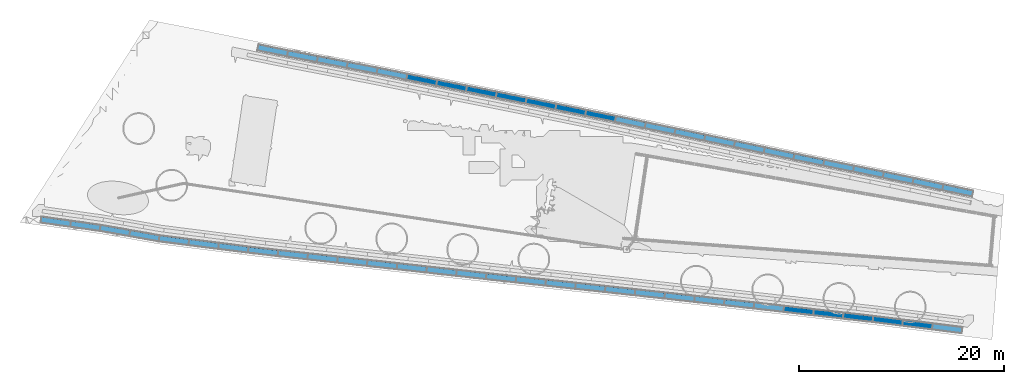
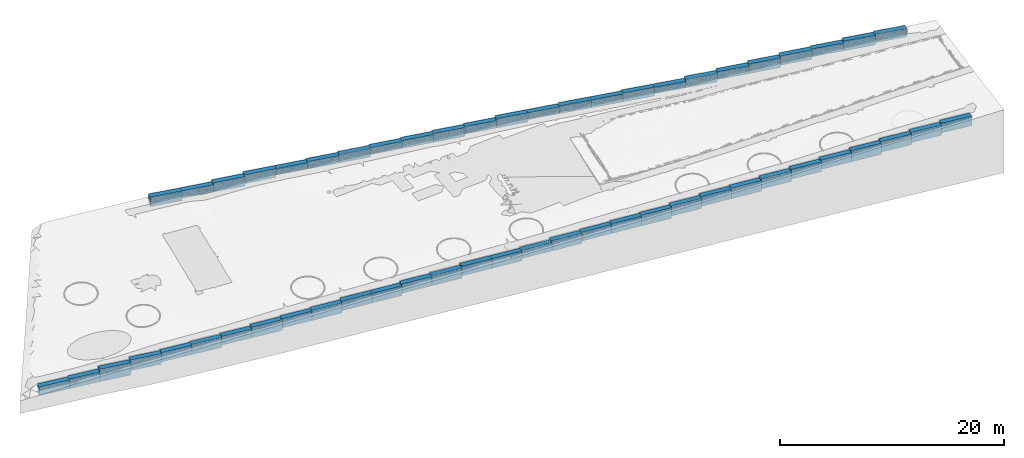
# Not in any storey, part 10 of 33: 55 walls.
"""IFC4 model written with IfcOpenShell, lengths in metres."""

from ifc_helpers import new_model, si_unit, direction, frame, origin_with_axes, place, context, subcontext, project, spatial, polyline, outline, extrude, material, element, save


model = new_model("IFC4")

# Units and contexts
model_context = context("Model", 3, precision=1e-05, world=origin_with_axes(), true_north=direction((0.0, 1.0)))
body_context = subcontext(model_context, "Body", "Model", "MODEL_VIEW")
ifc_project = project(units=[si_unit("LENGTHUNIT", "METRE"), si_unit("AREAUNIT", "SQUARE_METRE"), si_unit("VOLUMEUNIT", "CUBIC_METRE")], contexts=[model_context])

# Site
site_placement = place(None, origin_with_axes())
site = spatial("IfcSite", under=ifc_project, at=site_placement, Name="Lares · Rua das Mercês · artigo 4771")

# Walls
ifc_material = material(Name="Gabião · enchimento", Category="stone")
wall_1_placement = place(site_placement, frame((0.0, 0.0, 13.25), z_axis=(0.0, 0.0, 1.0), x_axis=(1.0, -1.03767253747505e-17, 0.0)))
element("IfcWall", 1, at=wall_1_placement, inside=site, material=ifc_material, Name="Limite north · gabião 4 · núcleo de pedra", ObjectType="Limite north · gabião 4 · núcleo de pedra", PredefinedType="USERDEFINED", context=body_context, shape_type="SweptSolid", body=[
    extrude(outline(polyline([(13.9459810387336, 21.6283738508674), (14.0549092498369, 21.6074246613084), (13.954813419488, 21.0869625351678), (13.8442172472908, 21.1082325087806), (13.8408855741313, 21.1088954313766), (11.0468891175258, 21.6834743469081), (11.1536482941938, 22.2026106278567), (13.9459810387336, 21.6283738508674)])), origin_with_axes(), (0.0, 0.0, 1.0), 1.05),
])
wall_2_placement = place(site_placement, frame((0.0, 0.0, 13.5), z_axis=(0.0, 0.0, 1.0), x_axis=(1.0, -1.03767253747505e-17, 0.0)))
element("IfcWall", 2, at=wall_2_placement, inside=site, material=ifc_material, Name="Limite north · gabião 5 · núcleo de pedra", ObjectType="Limite north · gabião 5 · núcleo de pedra", PredefinedType="USERDEFINED", context=body_context, shape_type="SweptSolid", body=[
    extrude(outline(polyline([(16.9666375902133, 21.0474379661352), (16.8665417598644, 20.5269758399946), (13.954813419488, 21.0869625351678), (14.0549092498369, 21.6074246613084), (16.9666375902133, 21.0474379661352)])), origin_with_axes(), (0.0, 0.0, 1.0), 0.800000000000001),
])
wall_3_placement = place(site_placement, frame((0.0, 0.0, 13.5), z_axis=(0.0, 0.0, 1.0), x_axis=(1.0, -1.03767253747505e-17, 0.0)))
element("IfcWall", 3, at=wall_3_placement, inside=site, material=ifc_material, Name="Limite north · gabião 6 · núcleo de pedra", ObjectType="Limite north · gabião 6 · núcleo de pedra", PredefinedType="USERDEFINED", context=body_context, shape_type="SweptSolid", body=[
    extrude(outline(polyline([(19.8783659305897, 20.487451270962), (19.7782701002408, 19.9669891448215), (16.8665417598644, 20.5269758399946), (16.9666375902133, 21.0474379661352), (19.8783659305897, 20.487451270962)])), origin_with_axes(), (0.0, 0.0, 1.0), 1.0),
])
wall_4_placement = place(site_placement, frame((0.0, 0.0, 13.75), z_axis=(0.0, 0.0, 1.0), x_axis=(1.0, -1.03767253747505e-17, 0.0)))
element("IfcWall", 4, at=wall_4_placement, inside=site, material=ifc_material, Name="Limite north · gabião 7 · núcleo de pedra", ObjectType="Limite north · gabião 7 · núcleo de pedra", PredefinedType="USERDEFINED", context=body_context, shape_type="SweptSolid", body=[
    extrude(outline(polyline([(21.9983013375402, 20.0797430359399), (22.0008751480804, 20.0792348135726), (22.7911217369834, 19.9191251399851), (22.6858782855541, 19.3996794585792), (21.896917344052, 19.5595286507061), (19.7782701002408, 19.9669891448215), (19.8783659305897, 20.487451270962), (21.9983013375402, 20.0797430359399)])), origin_with_axes(), (0.0, 0.0, 1.0), 0.950000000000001),
])
wall_5_placement = place(site_placement, frame((0.0, 0.0, 14.0), z_axis=(0.0, 0.0, 1.0), x_axis=(1.0, -1.03767253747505e-17, 0.0)))
element("IfcWall", 5, at=wall_5_placement, inside=site, material=ifc_material, Name="Limite north · gabião 8 · núcleo de pedra", ObjectType="Limite north · gabião 8 · núcleo de pedra", PredefinedType="USERDEFINED", context=body_context, shape_type="SweptSolid", body=[
    extrude(outline(polyline([(25.6971635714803, 19.3303400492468), (25.5919201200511, 18.8108943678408), (22.6858782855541, 19.3996794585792), (22.7911217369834, 19.9191251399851), (25.6971635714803, 19.3303400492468)])), origin_with_axes(), (0.0, 0.0, 1.0), 0.700000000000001),
])
wall_6_placement = place(site_placement, frame((0.0, 0.0, 14.0), z_axis=(0.0, 0.0, 1.0), x_axis=(1.0, -1.03767253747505e-17, 0.0)))
element("IfcWall", 6, at=wall_6_placement, inside=site, material=ifc_material, Name="Limite north · gabião 9 · núcleo de pedra", ObjectType="Limite north · gabião 9 · núcleo de pedra", PredefinedType="USERDEFINED", context=body_context, shape_type="SweptSolid", body=[
    extrude(outline(polyline([(27.7595237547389, 18.9124909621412), (28.6029361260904, 18.7442291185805), (28.49924383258, 18.2244715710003), (27.6554435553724, 18.392810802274), (27.6546679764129, 18.3929667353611), (25.5919201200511, 18.8108943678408), (25.6971635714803, 19.3303400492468), (27.7595237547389, 18.9124909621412)])), origin_with_axes(), (0.0, 0.0, 1.0), 0.800000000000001),
])
wall_7_placement = place(site_placement, frame((0.0, 0.0, 14.0), z_axis=(0.0, 0.0, 1.0), x_axis=(1.0, -1.03767253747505e-17, 0.0)))
element("IfcWall", 7, at=wall_7_placement, inside=site, material=ifc_material, Name="Limite north · gabião 10 · núcleo de pedra", ObjectType="Limite north · gabião 10 · núcleo de pedra", PredefinedType="USERDEFINED", context=body_context, shape_type="SweptSolid", body=[
    extrude(outline(polyline([(31.5107226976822, 18.1641219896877), (31.4070304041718, 17.6443644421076), (28.49924383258, 18.2244715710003), (28.6029361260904, 18.7442291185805), (31.5107226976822, 18.1641219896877)])), origin_with_axes(), (0.0, 0.0, 1.0), 0.9),
])
wall_8_placement = place(site_placement, frame((0.0, 0.0, 14.25), z_axis=(0.0, 0.0, 1.0), x_axis=(1.0, -1.03767253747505e-17, 0.0)))
element("IfcWall", 8, at=wall_8_placement, inside=site, material=ifc_material, Name="Limite north · gabião 11 · núcleo de pedra", ObjectType="Limite north · gabião 11 · núcleo de pedra", PredefinedType="USERDEFINED", context=body_context, shape_type="SweptSolid", body=[
    extrude(outline(polyline([(34.418509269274, 17.584014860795), (34.3148169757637, 17.0642573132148), (31.4070304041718, 17.6443644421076), (31.5107226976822, 18.1641219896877), (34.418509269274, 17.584014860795)])), origin_with_axes(), (0.0, 0.0, 1.0), 0.75),
])
wall_9_placement = place(site_placement, frame((0.0, 0.0, 14.25), z_axis=(0.0, 0.0, 1.0), x_axis=(1.0, -1.03767253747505e-17, 0.0)))
element("IfcWall", 9, at=wall_9_placement, inside=site, material=ifc_material, Name="Limite north · gabião 12 · núcleo de pedra", ObjectType="Limite north · gabião 12 · núcleo de pedra", PredefinedType="USERDEFINED", context=body_context, shape_type="SweptSolid", body=[
    extrude(outline(polyline([(36.5810808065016, 17.1525790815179), (36.5823908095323, 17.152314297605), (37.326846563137, 16.9998864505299), (37.2205342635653, 16.4806584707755), (36.476733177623, 16.6329522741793), (34.3148169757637, 17.0642573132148), (34.418509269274, 17.584014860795), (36.5810808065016, 17.1525790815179)])), origin_with_axes(), (0.0, 0.0, 1.0), 0.850000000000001),
])
wall_10_placement = place(site_placement, frame((0.0, 0.0, 14.25), z_axis=(0.0, 0.0, 1.0), x_axis=(1.0, -1.03767253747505e-17, 0.0)))
element("IfcWall", 10, at=wall_10_placement, inside=site, material=ifc_material, Name="Limite north · gabião 13 · núcleo de pedra", ObjectType="Limite north · gabião 13 · núcleo de pedra", PredefinedType="USERDEFINED", context=body_context, shape_type="SweptSolid", body=[
    extrude(outline(polyline([(40.2316704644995, 16.4051216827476), (40.1253581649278, 15.8858937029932), (37.2205342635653, 16.4806584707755), (37.326846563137, 16.9998864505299), (40.2316704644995, 16.4051216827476)])), origin_with_axes(), (0.0, 0.0, 1.0), 0.950000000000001),
])
wall_11_placement = place(site_placement, frame((0.0, 0.0, 14.5), z_axis=(0.0, 0.0, 1.0), x_axis=(1.0, -1.03767253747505e-17, 0.0)))
element("IfcWall", 11, at=wall_11_placement, inside=site, material=ifc_material, Name="Limite north · gabião 14 · núcleo de pedra", ObjectType="Limite north · gabião 14 · núcleo de pedra", PredefinedType="USERDEFINED", context=body_context, shape_type="SweptSolid", body=[
    extrude(outline(polyline([(43.136494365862, 15.8103569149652), (43.0301820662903, 15.2911289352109), (40.1253581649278, 15.8858937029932), (40.2316704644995, 16.4051216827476), (43.136494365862, 15.8103569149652)])), origin_with_axes(), (0.0, 0.0, 1.0), 0.800000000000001),
])
wall_12_placement = place(site_placement, frame((0.0, 0.0, 14.5), z_axis=(0.0, 0.0, 1.0), x_axis=(1.0, -1.03767253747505e-17, 0.0)))
element("IfcWall", 12, at=wall_12_placement, inside=site, material=ifc_material, Name="Limite north · gabião 15 · núcleo de pedra", ObjectType="Limite north · gabião 15 · núcleo de pedra", PredefinedType="USERDEFINED", context=body_context, shape_type="SweptSolid", body=[
    extrude(outline(polyline([(46.0413182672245, 15.2155921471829), (45.9350059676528, 14.6963641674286), (43.0301820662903, 15.2911289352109), (43.136494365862, 15.8103569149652), (46.0413182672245, 15.2155921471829)])), origin_with_axes(), (0.0, 0.0, 1.0), 1.0),
])
wall_13_placement = place(site_placement, frame((0.0, 0.0, 14.75), z_axis=(0.0, 0.0, 1.0), x_axis=(1.0, -1.03767253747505e-17, 0.0)))
element("IfcWall", 13, at=wall_13_placement, inside=site, material=ifc_material, Name="Limite north · gabião 16 · núcleo de pedra", ObjectType="Limite north · gabião 16 · núcleo de pedra", PredefinedType="USERDEFINED", context=body_context, shape_type="SweptSolid", body=[
    extrude(outline(polyline([(46.0688101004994, 15.2099631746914), (46.0700833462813, 15.2096992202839), (48.9444899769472, 14.6064518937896), (48.8356311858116, 14.0877518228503), (45.9618608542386, 14.6908656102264), (45.9350059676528, 14.6963641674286), (46.0413182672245, 15.2155921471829), (46.0688101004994, 15.2099631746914)])), origin_with_axes(), (0.0, 0.0, 1.0), 0.75),
])
wall_14_placement = place(site_placement, frame((0.0, 0.0, 14.75), z_axis=(0.0, 0.0, 1.0), x_axis=(1.0, -1.03767253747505e-17, 0.0)))
element("IfcWall", 14, at=wall_14_placement, inside=site, material=ifc_material, Name="Limite north · gabião 17 · núcleo de pedra", ObjectType="Limite north · gabião 17 · núcleo de pedra", PredefinedType="USERDEFINED", context=body_context, shape_type="SweptSolid", body=[
    extrude(outline(polyline([(51.846360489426, 13.9974407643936), (51.7375016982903, 13.4787406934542), (48.8356311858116, 14.0877518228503), (48.9444899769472, 14.6064518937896), (51.846360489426, 13.9974407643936)])), origin_with_axes(), (0.0, 0.0, 1.0), 0.850000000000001),
])
wall_15_placement = place(site_placement, frame((0.0, 0.0, 14.75), z_axis=(0.0, 0.0, 1.0), x_axis=(1.0, -1.03767253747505e-17, 0.0)))
element("IfcWall", 15, at=wall_15_placement, inside=site, material=ifc_material, Name="Limite north · gabião 18 · núcleo de pedra", ObjectType="Limite north · gabião 18 · núcleo de pedra", PredefinedType="USERDEFINED", context=body_context, shape_type="SweptSolid", body=[
    extrude(outline(polyline([(54.7482310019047, 13.3884296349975), (54.6393722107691, 12.8697295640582), (51.7375016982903, 13.4787406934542), (51.846360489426, 13.9974407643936), (54.7482310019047, 13.3884296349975)])), origin_with_axes(), (0.0, 0.0, 1.0), 0.850000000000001),
])
wall_16_placement = place(site_placement, frame((0.0, 0.0, 14.75), z_axis=(0.0, 0.0, 1.0), x_axis=(1.0, -1.03767253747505e-17, 0.0)))
element("IfcWall", 16, at=wall_16_placement, inside=site, material=ifc_material, Name="Limite north · gabião 19 · núcleo de pedra", ObjectType="Limite north · gabião 19 · núcleo de pedra", PredefinedType="USERDEFINED", context=body_context, shape_type="SweptSolid", body=[
    extrude(outline(polyline([(56.4691492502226, 13.027263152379), (56.4695476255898, 13.0271792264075), (57.6501177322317, 12.7775205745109), (57.5404621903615, 12.2589883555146), (56.3600912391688, 12.5086048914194), (54.6393722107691, 12.8697295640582), (54.7482310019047, 13.3884296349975), (56.4691492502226, 13.027263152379)])), origin_with_axes(), (0.0, 0.0, 1.0), 0.950000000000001),
])
wall_17_placement = place(site_placement, frame((0.0, 0.0, 15.0), z_axis=(0.0, 0.0, 1.0), x_axis=(1.0, -1.03767253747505e-17, 0.0)))
element("IfcWall", 17, at=wall_17_placement, inside=site, material=ifc_material, Name="Limite north · gabião 20 · núcleo de pedra", ObjectType="Limite north · gabião 20 · núcleo de pedra", PredefinedType="USERDEFINED", context=body_context, shape_type="SweptSolid", body=[
    extrude(outline(polyline([(60.551049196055, 12.1640520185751), (60.4413936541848, 11.6455197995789), (57.5404621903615, 12.2589883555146), (57.6501177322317, 12.7775205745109), (60.551049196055, 12.1640520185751)])), origin_with_axes(), (0.0, 0.0, 1.0), 0.700000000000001),
])
wall_18_placement = place(site_placement, frame((0.0, 0.0, 15.0), z_axis=(0.0, 0.0, 1.0), x_axis=(1.0, -1.03767253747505e-17, 0.0)))
element("IfcWall", 18, at=wall_18_placement, inside=site, material=ifc_material, Name="Limite north · gabião 21 · núcleo de pedra", ObjectType="Limite north · gabião 21 · núcleo de pedra", PredefinedType="USERDEFINED", context=body_context, shape_type="SweptSolid", body=[
    extrude(outline(polyline([(63.4519806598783, 11.5505834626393), (63.3423251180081, 11.0320512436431), (60.4413936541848, 11.6455197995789), (60.551049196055, 12.1640520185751), (63.4519806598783, 11.5505834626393)])), origin_with_axes(), (0.0, 0.0, 1.0), 0.9),
])
wall_19_placement = place(site_placement, frame((0.0, 0.0, 15.25), z_axis=(0.0, 0.0, 1.0), x_axis=(1.0, -1.03767253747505e-17, 0.0)))
element("IfcWall", 19, at=wall_19_placement, inside=site, material=ifc_material, Name="Limite north · gabião 22 · núcleo de pedra", ObjectType="Limite north · gabião 22 · núcleo de pedra", PredefinedType="USERDEFINED", context=body_context, shape_type="SweptSolid", body=[
    extrude(outline(polyline([(65.1604418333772, 11.1892901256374), (66.3527884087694, 10.9488009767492), (66.2480007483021, 10.4292631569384), (65.0544360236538, 10.6699979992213), (65.0520020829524, 10.6705007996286), (63.3423251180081, 11.0320512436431), (63.4519806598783, 11.5505834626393), (65.1604418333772, 11.1892901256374)])), origin_with_axes(), (0.0, 0.0, 1.0), 0.850000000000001),
])
wall_20_placement = place(site_placement, frame((0.0, 0.0, 15.25), z_axis=(0.0, 0.0, 1.0), x_axis=(1.0, -1.03767253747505e-17, 0.0)))
element("IfcWall", 20, at=wall_20_placement, inside=site, material=ifc_material, Name="Limite north · gabião 23 · núcleo de pedra", ObjectType="Limite north · gabião 23 · núcleo de pedra", PredefinedType="USERDEFINED", context=body_context, shape_type="SweptSolid", body=[
    extrude(outline(polyline([(69.2593457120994, 10.3625658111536), (69.1545580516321, 9.84302799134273), (66.2480007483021, 10.4292631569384), (66.3527884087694, 10.9488009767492), (69.2593457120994, 10.3625658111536)])), origin_with_axes(), (0.0, 0.0, 1.0), 1.05),
])
wall_21_placement = place(site_placement, frame((0.0, 0.0, 15.5), z_axis=(0.0, 0.0, 1.0), x_axis=(1.0, -1.03767253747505e-17, 0.0)))
element("IfcWall", 21, at=wall_21_placement, inside=site, material=ifc_material, Name="Limite north · gabião 24 · núcleo de pedra", ObjectType="Limite north · gabião 24 · núcleo de pedra", PredefinedType="USERDEFINED", context=body_context, shape_type="SweptSolid", body=[
    extrude(outline(polyline([(72.1659030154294, 9.77633064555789), (72.0611153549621, 9.25679282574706), (69.1545580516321, 9.84302799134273), (69.2593457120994, 10.3625658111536), (72.1659030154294, 9.77633064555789)])), origin_with_axes(), (0.0, 0.0, 1.0), 1.0),
])
wall_22_placement = place(site_placement, frame((0.0, 0.0, 15.75), z_axis=(0.0, 0.0, 1.0), x_axis=(1.0, -1.03767253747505e-17, 0.0)))
element("IfcWall", 22, at=wall_22_placement, inside=site, material=ifc_material, Name="Limite north · gabião 25 · núcleo de pedra", ObjectType="Limite north · gabião 25 · núcleo de pedra", PredefinedType="USERDEFINED", context=body_context, shape_type="SweptSolid", body=[
    extrude(outline(polyline([(73.4824731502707, 9.5107863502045), (73.4851480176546, 9.51023248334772), (75.0717450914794, 9.17316935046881), (74.9616076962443, 8.65473926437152), (73.3763466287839, 8.99151857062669), (72.0611153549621, 9.25679282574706), (72.1659030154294, 9.77633064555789), (73.4824731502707, 9.5107863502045)])), origin_with_axes(), (0.0, 0.0, 1.0), 0.850000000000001),
])
wall_23_placement = place(site_placement, frame((0.0, 0.0, 15.75), z_axis=(0.0, 0.0, 1.0), x_axis=(1.0, -1.03767253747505e-17, 0.0)))
element("IfcWall", 23, at=wall_23_placement, inside=site, material=ifc_material, Name="Limite north · gabião 26 · núcleo de pedra", ObjectType="Limite north · gabião 26 · núcleo de pedra", PredefinedType="USERDEFINED", context=body_context, shape_type="SweptSolid", body=[
    extrude(outline(polyline([(77.9721051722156, 8.55700506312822), (77.8619677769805, 8.03857497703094), (74.9616076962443, 8.65473926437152), (75.0717450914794, 9.17316935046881), (77.9721051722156, 8.55700506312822)])), origin_with_axes(), (0.0, 0.0, 1.0), 1.05),
])
wall_24_placement = place(site_placement, frame((0.0, 0.0, 16.0), z_axis=(0.0, 0.0, 1.0), x_axis=(1.0, -1.03767253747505e-17, 0.0)))
element("IfcWall", 24, at=wall_24_placement, inside=site, material=ifc_material, Name="Limite north · gabião 27 · núcleo de pedra", ObjectType="Limite north · gabião 27 · núcleo de pedra", PredefinedType="USERDEFINED", context=body_context, shape_type="SweptSolid", body=[
    extrude(outline(polyline([(80.8724652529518, 7.94084077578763), (80.7623278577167, 7.42241068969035), (77.8619677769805, 8.03857497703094), (77.9721051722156, 8.55700506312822), (80.8724652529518, 7.94084077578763)])), origin_with_axes(), (0.0, 0.0, 1.0), 0.900000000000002),
])
wall_25_placement = place(site_placement, frame((0.0, 0.0, 10.25), z_axis=(0.0, 0.0, 1.0), x_axis=(1.0, -1.03767253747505e-17, 0.0)))
element("IfcWall", 25, at=wall_25_placement, inside=site, material=ifc_material, Name="Limite south · gabião 1 · núcleo de pedra", ObjectType="Limite south · gabião 1 · núcleo de pedra", PredefinedType="USERDEFINED", context=body_context, shape_type="SweptSolid", body=[
    extrude(outline(polyline([(-7.12131503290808, 5.00047159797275), (-7.19516742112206, 4.4756422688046), (-10.0859988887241, 4.88243128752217), (-10.0121465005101, 5.40726061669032), (-7.12131503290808, 5.00047159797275)])), origin_with_axes(), (0.0, 0.0, 1.0), 0.950000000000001),
])
wall_26_placement = place(site_placement, frame((0.0, 0.0, 10.25), z_axis=(0.0, 0.0, 1.0), x_axis=(1.0, -1.03767253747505e-17, 0.0)))
element("IfcWall", 26, at=wall_26_placement, inside=site, material=ifc_material, Name="Limite south · gabião 2 · núcleo de pedra", ObjectType="Limite south · gabião 2 · núcleo de pedra", PredefinedType="USERDEFINED", context=body_context, shape_type="SweptSolid", body=[
    extrude(outline(polyline([(-4.23048356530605, 4.59368257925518), (-4.30433595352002, 4.06885325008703), (-7.19516742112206, 4.4756422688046), (-7.12131503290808, 5.00047159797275), (-4.23048356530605, 4.59368257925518)])), origin_with_axes(), (0.0, 0.0, 1.0), 1.05),
])
wall_27_placement = place(site_placement, frame((0.0, 0.0, 10.25), z_axis=(0.0, 0.0, 1.0), x_axis=(1.0, -1.03767253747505e-17, 0.0)))
element("IfcWall", 27, at=wall_27_placement, inside=site, material=ifc_material, Name="Limite south · gabião 3 · núcleo de pedra", ObjectType="Limite south · gabião 3 · núcleo de pedra", PredefinedType="USERDEFINED", context=body_context, shape_type="SweptSolid", body=[
    extrude(outline(polyline([(-4.13330984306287, 4.58000858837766), (-4.12415688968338, 4.57855697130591), (-1.34595301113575, 4.08799990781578), (-1.43811130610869, 3.56607381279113), (-4.21175140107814, 4.0558250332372), (-4.30433595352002, 4.06885325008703), (-4.23048356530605, 4.59368257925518), (-4.13330984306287, 4.58000858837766)])), origin_with_axes(), (0.0, 0.0, 1.0), 1.35),
])
wall_28_placement = place(site_placement, frame((0.0, 0.0, 10.75), z_axis=(0.0, 0.0, 1.0), x_axis=(1.0, -1.03767253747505e-17, 0.0)))
element("IfcWall", 28, at=wall_28_placement, inside=site, material=ifc_material, Name="Limite south · gabião 4 · núcleo de pedra", ObjectType="Limite south · gabião 4 · núcleo de pedra", PredefinedType="USERDEFINED", context=body_context, shape_type="SweptSolid", body=[
    extrude(outline(polyline([(1.52888704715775, 3.58037945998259), (1.43672875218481, 3.05845336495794), (-1.43811130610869, 3.56607381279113), (-1.34595301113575, 4.08799990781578), (1.52888704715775, 3.58037945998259)])), origin_with_axes(), (0.0, 0.0, 1.0), 1.15),
])
wall_29_placement = place(site_placement, frame((0.0, 0.0, 11.0), z_axis=(0.0, 0.0, 1.0), x_axis=(1.0, -1.03767253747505e-17, 0.0)))
element("IfcWall", 29, at=wall_29_placement, inside=site, material=ifc_material, Name="Limite south · gabião 5 · núcleo de pedra", ObjectType="Limite south · gabião 5 · núcleo de pedra", PredefinedType="USERDEFINED", context=body_context, shape_type="SweptSolid", body=[
    extrude(outline(polyline([(1.58401702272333, 3.57064496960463), (4.41182804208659, 3.21260346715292), (4.34525393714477, 2.68680132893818), (1.51102320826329, 3.04565565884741), (1.49823111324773, 3.04759368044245), (1.43672875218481, 3.05845336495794), (1.52888704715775, 3.58037945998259), (1.58401702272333, 3.57064496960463)])), origin_with_axes(), (0.0, 0.0, 1.0), 1.0),
])
wall_30_placement = place(site_placement, frame((0.0, 0.0, 11.0), z_axis=(0.0, 0.0, 1.0), x_axis=(1.0, -1.03767253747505e-17, 0.0)))
element("IfcWall", 30, at=wall_30_placement, inside=site, material=ifc_material, Name="Limite south · gabião 6 · núcleo de pedra", ObjectType="Limite south · gabião 6 · núcleo de pedra", PredefinedType="USERDEFINED", context=body_context, shape_type="SweptSolid", body=[
    extrude(outline(polyline([(7.30801787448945, 2.8459042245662), (7.24144376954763, 2.32010208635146), (4.34525393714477, 2.68680132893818), (4.41182804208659, 3.21260346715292), (7.30801787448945, 2.8459042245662)])), origin_with_axes(), (0.0, 0.0, 1.0), 1.1),
])
wall_31_placement = place(site_placement, frame((0.0, 0.0, 11.25), z_axis=(0.0, 0.0, 1.0), x_axis=(1.0, -1.03767253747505e-17, 0.0)))
element("IfcWall", 31, at=wall_31_placement, inside=site, material=ifc_material, Name="Limite south · gabião 7 · núcleo de pedra", ObjectType="Limite south · gabião 7 · núcleo de pedra", PredefinedType="USERDEFINED", context=body_context, shape_type="SweptSolid", body=[
    extrude(outline(polyline([(10.2042077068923, 2.47920498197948), (10.1376336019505, 1.95340284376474), (7.24144376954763, 2.32010208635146), (7.30801787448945, 2.8459042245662), (10.2042077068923, 2.47920498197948)])), origin_with_axes(), (0.0, 0.0, 1.0), 0.950000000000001),
])
wall_32_placement = place(site_placement, frame((0.0, 0.0, 11.25), z_axis=(0.0, 0.0, 1.0), x_axis=(1.0, -1.03767253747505e-17, 0.0)))
element("IfcWall", 32, at=wall_32_placement, inside=site, material=ifc_material, Name="Limite south · gabião 8 · núcleo de pedra", ObjectType="Limite south · gabião 8 · núcleo de pedra", PredefinedType="USERDEFINED", context=body_context, shape_type="SweptSolid", body=[
    extrude(outline(polyline([(11.1435488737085, 2.36027089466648), (13.0998900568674, 2.14458601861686), (13.0418099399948, 1.61777798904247), (11.0833432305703, 1.83369720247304), (11.0790962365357, 1.83420014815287), (10.1376336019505, 1.95340284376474), (10.2042077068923, 2.47920498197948), (11.1435488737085, 2.36027089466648)])), origin_with_axes(), (0.0, 0.0, 1.0), 1.15),
])
wall_33_placement = place(site_placement, frame((0.0, 0.0, 11.5), z_axis=(0.0, 0.0, 1.0), x_axis=(1.0, -1.03767253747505e-17, 0.0)))
element("IfcWall", 33, at=wall_33_placement, inside=site, material=ifc_material, Name="Limite south · gabião 9 · núcleo de pedra", ObjectType="Limite south · gabião 9 · núcleo de pedra", PredefinedType="USERDEFINED", context=body_context, shape_type="SweptSolid", body=[
    extrude(outline(polyline([(16.0016204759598, 1.82467281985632), (15.9435403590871, 1.29786479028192), (13.0418099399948, 1.61777798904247), (13.0998900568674, 2.14458601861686), (16.0016204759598, 1.82467281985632)])), origin_with_axes(), (0.0, 0.0, 1.0), 1.0),
])
wall_34_placement = place(site_placement, frame((0.0, 0.0, 11.5), z_axis=(0.0, 0.0, 1.0), x_axis=(1.0, -1.03767253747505e-17, 0.0)))
element("IfcWall", 34, at=wall_34_placement, inside=site, material=ifc_material, Name="Limite south · gabião 10 · núcleo de pedra", ObjectType="Limite south · gabião 10 · núcleo de pedra", PredefinedType="USERDEFINED", context=body_context, shape_type="SweptSolid", body=[
    extrude(outline(polyline([(18.9033508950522, 1.50475962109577), (18.8452707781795, 0.97795159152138), (15.9435403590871, 1.29786479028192), (16.0016204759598, 1.82467281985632), (18.9033508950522, 1.50475962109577)])), origin_with_axes(), (0.0, 0.0, 1.0), 1.1),
])
wall_35_placement = place(site_placement, frame((0.0, 0.0, 11.75), z_axis=(0.0, 0.0, 1.0), x_axis=(1.0, -1.03767253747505e-17, 0.0)))
element("IfcWall", 35, at=wall_35_placement, inside=site, material=ifc_material, Name="Limite south · gabião 11 · núcleo de pedra", ObjectType="Limite south · gabião 11 · núcleo de pedra", PredefinedType="USERDEFINED", context=body_context, shape_type="SweptSolid", body=[
    extrude(outline(polyline([(21.8050813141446, 1.18484642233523), (21.7470011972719, 0.658038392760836), (18.8452707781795, 0.97795159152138), (18.9033508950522, 1.50475962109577), (21.8050813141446, 1.18484642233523)])), origin_with_axes(), (0.0, 0.0, 1.0), 1.05),
])
wall_36_placement = place(site_placement, frame((0.0, 0.0, 11.75), z_axis=(0.0, 0.0, 1.0), x_axis=(1.0, -1.03767253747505e-17, 0.0)))
element("IfcWall", 36, at=wall_36_placement, inside=site, material=ifc_material, Name="Limite south · gabião 12 · núcleo de pedra", ObjectType="Limite south · gabião 12 · núcleo de pedra", PredefinedType="USERDEFINED", context=body_context, shape_type="SweptSolid", body=[
    extrude(outline(polyline([(23.5374462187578, 0.993854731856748), (23.5377683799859, 0.993819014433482), (24.7069753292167, 0.863467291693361), (24.6482508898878, 0.336730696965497), (23.4792050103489, 0.467064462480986), (21.7470011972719, 0.658038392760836), (21.8050813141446, 1.18484642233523), (23.5374462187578, 0.993854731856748)])), origin_with_axes(), (0.0, 0.0, 1.0), 1.05),
])
wall_37_placement = place(site_placement, frame((0.0, 0.0, 12.0), z_axis=(0.0, 0.0, 1.0), x_axis=(1.0, -1.03767253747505e-17, 0.0)))
element("IfcWall", 37, at=wall_37_placement, inside=site, material=ifc_material, Name="Limite south · gabião 13 · núcleo de pedra", ObjectType="Limite south · gabião 13 · núcleo de pedra", PredefinedType="USERDEFINED", context=body_context, shape_type="SweptSolid", body=[
    extrude(outline(polyline([(27.6083122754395, 0.540005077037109), (27.5495878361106, 0.0132684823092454), (24.6482508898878, 0.336730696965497), (24.7069753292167, 0.863467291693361), (27.6083122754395, 0.540005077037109)])), origin_with_axes(), (0.0, 0.0, 1.0), 1.0),
])
wall_38_placement = place(site_placement, frame((0.0, 0.0, 12.0), z_axis=(0.0, 0.0, 1.0), x_axis=(1.0, -1.03767253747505e-17, 0.0)))
element("IfcWall", 38, at=wall_38_placement, inside=site, material=ifc_material, Name="Limite south · gabião 14 · núcleo de pedra", ObjectType="Limite south · gabião 14 · núcleo de pedra", PredefinedType="USERDEFINED", context=body_context, shape_type="SweptSolid", body=[
    extrude(outline(polyline([(30.5096492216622, 0.216542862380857), (30.4509247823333, -0.310193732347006), (27.5495878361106, 0.0132684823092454), (27.6083122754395, 0.540005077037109), (30.5096492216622, 0.216542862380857)])), origin_with_axes(), (0.0, 0.0, 1.0), 1.1),
])
wall_39_placement = place(site_placement, frame((0.0, 0.0, 12.25), z_axis=(0.0, 0.0, 1.0), x_axis=(1.0, -1.03767253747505e-17, 0.0)))
element("IfcWall", 39, at=wall_39_placement, inside=site, material=ifc_material, Name="Limite south · gabião 15 · núcleo de pedra", ObjectType="Limite south · gabião 15 · núcleo de pedra", PredefinedType="USERDEFINED", context=body_context, shape_type="SweptSolid", body=[
    extrude(outline(polyline([(33.4109861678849, -0.106919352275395), (33.352261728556, -0.633655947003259), (30.4509247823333, -0.310193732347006), (30.5096492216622, 0.216542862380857), (33.4109861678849, -0.106919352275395)])), origin_with_axes(), (0.0, 0.0, 1.0), 1.05),
])
wall_40_placement = place(site_placement, frame((0.0, 0.0, 12.25), z_axis=(0.0, 0.0, 1.0), x_axis=(1.0, -1.03767253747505e-17, 0.0)))
element("IfcWall", 40, at=wall_40_placement, inside=site, material=ifc_material, Name="Limite south · gabião 16 · núcleo de pedra", ObjectType="Limite south · gabião 16 · núcleo de pedra", PredefinedType="USERDEFINED", context=body_context, shape_type="SweptSolid", body=[
    extrude(outline(polyline([(35.2033407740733, -0.306744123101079), (36.3117755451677, -0.425994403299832), (36.2550829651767, -0.952953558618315), (35.1461401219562, -0.833648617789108), (35.1451241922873, -0.833537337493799), (33.352261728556, -0.633655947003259), (33.4109861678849, -0.106919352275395), (35.2033407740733, -0.306744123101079)])), origin_with_axes(), (0.0, 0.0, 1.0), 1.05),
])
wall_41_placement = place(site_placement, frame((0.0, 0.0, 12.5), z_axis=(0.0, 0.0, 1.0), x_axis=(1.0, -1.03767253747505e-17, 0.0)))
element("IfcWall", 41, at=wall_41_placement, inside=site, material=ifc_material, Name="Limite south · gabião 17 · núcleo de pedra", ObjectType="Limite south · gabião 17 · núcleo de pedra", PredefinedType="USERDEFINED", context=body_context, shape_type="SweptSolid", body=[
    extrude(outline(polyline([(39.2143383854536, -0.738264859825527), (39.1576458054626, -1.26522401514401), (36.2550829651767, -0.952953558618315), (36.3117755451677, -0.425994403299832), (39.2143383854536, -0.738264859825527)])), origin_with_axes(), (0.0, 0.0, 1.0), 0.9),
])
wall_42_placement = place(site_placement, frame((0.0, 0.0, 12.5), z_axis=(0.0, 0.0, 1.0), x_axis=(1.0, -1.03767253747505e-17, 0.0)))
element("IfcWall", 42, at=wall_42_placement, inside=site, material=ifc_material, Name="Limite south · gabião 18 · núcleo de pedra", ObjectType="Limite south · gabião 18 · núcleo de pedra", PredefinedType="USERDEFINED", context=body_context, shape_type="SweptSolid", body=[
    extrude(outline(polyline([(42.1169012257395, -1.05053531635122), (42.0602086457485, -1.5774944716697), (39.1576458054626, -1.26522401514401), (39.2143383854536, -0.738264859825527), (42.1169012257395, -1.05053531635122)])), origin_with_axes(), (0.0, 0.0, 1.0), 1.1),
])
wall_43_placement = place(site_placement, frame((0.0, 0.0, 12.75), z_axis=(0.0, 0.0, 1.0), x_axis=(1.0, -1.03767253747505e-17, 0.0)))
element("IfcWall", 43, at=wall_43_placement, inside=site, material=ifc_material, Name="Limite south · gabião 19 · núcleo de pedra", ObjectType="Limite south · gabião 19 · núcleo de pedra", PredefinedType="USERDEFINED", context=body_context, shape_type="SweptSolid", body=[
    extrude(outline(polyline([(45.0194640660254, -1.36280577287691), (44.9627714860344, -1.8897649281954), (42.0602086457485, -1.5774944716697), (42.1169012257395, -1.05053531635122), (45.0194640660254, -1.36280577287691)])), origin_with_axes(), (0.0, 0.0, 1.0), 0.950000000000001),
])
wall_44_placement = place(site_placement, frame((0.0, 0.0, 12.75), z_axis=(0.0, 0.0, 1.0), x_axis=(1.0, -1.03767253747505e-17, 0.0)))
element("IfcWall", 44, at=wall_44_placement, inside=site, material=ifc_material, Name="Limite south · gabião 20 · núcleo de pedra", ObjectType="Limite south · gabião 20 · núcleo de pedra", PredefinedType="USERDEFINED", context=body_context, shape_type="SweptSolid", body=[
    extrude(outline(polyline([(47.2063111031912, -1.59807638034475), (47.2072099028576, -1.59817462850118), (47.9226588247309, -1.67761597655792), (47.8641686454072, -2.20437863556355), (47.1491690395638, -2.12498717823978), (44.9627714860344, -1.8897649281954), (45.0194640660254, -1.36280577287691), (47.2063111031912, -1.59807638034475)])), origin_with_axes(), (0.0, 0.0, 1.0), 1.05),
])
wall_45_placement = place(site_placement, frame((0.0, 0.0, 12.75), z_axis=(0.0, 0.0, 1.0), x_axis=(1.0, -1.03767253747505e-17, 0.0)))
element("IfcWall", 45, at=wall_45_placement, inside=site, material=ifc_material, Name="Limite south · gabião 21 · núcleo de pedra", ObjectType="Limite south · gabião 21 · núcleo de pedra", PredefinedType="USERDEFINED", context=body_context, shape_type="SweptSolid", body=[
    extrude(outline(polyline([(50.8241393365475, -1.99978785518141), (50.7656491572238, -2.52655051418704), (47.8641686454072, -2.20437863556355), (47.9226588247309, -1.67761597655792), (50.8241393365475, -1.99978785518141)])), origin_with_axes(), (0.0, 0.0, 1.0), 1.15),
])
wall_46_placement = place(site_placement, frame((0.0, 0.0, 13.0), z_axis=(0.0, 0.0, 1.0), x_axis=(1.0, -1.03767253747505e-17, 0.0)))
element("IfcWall", 46, at=wall_46_placement, inside=site, material=ifc_material, Name="Limite south · gabião 22 · núcleo de pedra", ObjectType="Limite south · gabião 22 · núcleo de pedra", PredefinedType="USERDEFINED", context=body_context, shape_type="SweptSolid", body=[
    extrude(outline(polyline([(53.7256198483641, -2.3219597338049), (53.6671296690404, -2.84872239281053), (50.7656491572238, -2.52655051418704), (50.8241393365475, -1.99978785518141), (53.7256198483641, -2.3219597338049)])), origin_with_axes(), (0.0, 0.0, 1.0), 1.1),
])
wall_47_placement = place(site_placement, frame((0.0, 0.0, 13.25), z_axis=(0.0, 0.0, 1.0), x_axis=(1.0, -1.03767253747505e-17, 0.0)))
element("IfcWall", 47, at=wall_47_placement, inside=site, material=ifc_material, Name="Limite south · gabião 23 · núcleo de pedra", ObjectType="Limite south · gabião 23 · núcleo de pedra", PredefinedType="USERDEFINED", context=body_context, shape_type="SweptSolid", body=[
    extrude(outline(polyline([(56.6271003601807, -2.64413161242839), (56.568610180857, -3.17089427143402), (53.6671296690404, -2.84872239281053), (53.7256198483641, -2.3219597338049), (56.6271003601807, -2.64413161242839)])), origin_with_axes(), (0.0, 0.0, 1.0), 1.05),
])
wall_48_placement = place(site_placement, frame((0.0, 0.0, 13.25), z_axis=(0.0, 0.0, 1.0), x_axis=(1.0, -1.03767253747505e-17, 0.0)))
element("IfcWall", 48, at=wall_48_placement, inside=site, material=ifc_material, Name="Limite south · gabião 24 · núcleo de pedra", ObjectType="Limite south · gabião 24 · núcleo de pedra", PredefinedType="USERDEFINED", context=body_context, shape_type="SweptSolid", body=[
    extrude(outline(polyline([(59.3633613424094, -2.94795799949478), (59.3640539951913, -2.94803583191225), (59.5292247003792, -2.96681582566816), (59.4693492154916, -3.49342281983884), (59.3045247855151, -3.47468219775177), (56.568610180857, -3.17089427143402), (56.6271003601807, -2.64413161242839), (59.3633613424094, -2.94795799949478)])), origin_with_axes(), (0.0, 0.0, 1.0), 1.15),
])
wall_49_placement = place(site_placement, frame((0.0, 0.0, 13.5), z_axis=(0.0, 0.0, 1.0), x_axis=(1.0, -1.03767253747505e-17, 0.0)))
element("IfcWall", 49, at=wall_49_placement, inside=site, material=ifc_material, Name="Limite south · gabião 25 · núcleo de pedra", ObjectType="Limite south · gabião 25 · núcleo de pedra", PredefinedType="USERDEFINED", context=body_context, shape_type="SweptSolid", body=[
    extrude(outline(polyline([(62.4298477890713, -3.29661815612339), (62.3699723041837, -3.82322515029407), (59.4693492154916, -3.49342281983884), (59.5292247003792, -2.96681582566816), (62.4298477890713, -3.29661815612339)])), origin_with_axes(), (0.0, 0.0, 1.0), 1.1),
])
wall_50_placement = place(site_placement, frame((0.0, 0.0, 13.75), z_axis=(0.0, 0.0, 1.0), x_axis=(1.0, -1.03767253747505e-17, 0.0)))
element("IfcWall", 50, at=wall_50_placement, inside=site, material=ifc_material, Name="Limite south · gabião 26 · núcleo de pedra", ObjectType="Limite south · gabião 26 · núcleo de pedra", PredefinedType="USERDEFINED", context=body_context, shape_type="SweptSolid", body=[
    extrude(outline(polyline([(65.3304708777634, -3.62642048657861), (65.2705953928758, -4.15302748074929), (62.3699723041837, -3.82322515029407), (62.4298477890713, -3.29661815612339), (65.3304708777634, -3.62642048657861)])), origin_with_axes(), (0.0, 0.0, 1.0), 1.05),
])
wall_51_placement = place(site_placement, frame((0.0, 0.0, 14.0), z_axis=(0.0, 0.0, 1.0), x_axis=(1.0, -1.03767253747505e-17, 0.0)))
element("IfcWall", 51, at=wall_51_placement, inside=site, material=ifc_material, Name="Limite south · gabião 27 · núcleo de pedra", ObjectType="Limite south · gabião 27 · núcleo de pedra", PredefinedType="USERDEFINED", context=body_context, shape_type="SweptSolid", body=[
    extrude(outline(polyline([(68.2310939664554, -3.95622281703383), (68.1712184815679, -4.48282981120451), (65.2705953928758, -4.15302748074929), (65.3304708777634, -3.62642048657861), (68.2310939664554, -3.95622281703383)])), origin_with_axes(), (0.0, 0.0, 1.0), 1.0),
])
wall_52_placement = place(site_placement, frame((0.0, 0.0, 14.0), z_axis=(0.0, 0.0, 1.0), x_axis=(1.0, -1.03767253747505e-17, 0.0)))
element("IfcWall", 52, at=wall_52_placement, inside=site, material=ifc_material, Name="Limite south · gabião 28 · núcleo de pedra", ObjectType="Limite south · gabião 28 · núcleo de pedra", PredefinedType="USERDEFINED", context=body_context, shape_type="SweptSolid", body=[
    extrude(outline(polyline([(71.1317170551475, -4.28602514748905), (71.07184157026, -4.81263214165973), (68.1712184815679, -4.48282981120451), (68.2310939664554, -3.95622281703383), (71.1317170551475, -4.28602514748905)])), origin_with_axes(), (0.0, 0.0, 1.0), 1.2),
])
wall_53_placement = place(site_placement, frame((0.0, 0.0, 14.25), z_axis=(0.0, 0.0, 1.0), x_axis=(1.0, -1.03767253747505e-17, 0.0)))
element("IfcWall", 53, at=wall_53_placement, inside=site, material=ifc_material, Name="Limite south · gabião 29 · núcleo de pedra", ObjectType="Limite south · gabião 29 · núcleo de pedra", PredefinedType="USERDEFINED", context=body_context, shape_type="SweptSolid", body=[
    extrude(outline(polyline([(71.3785279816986, -4.31408767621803), (71.3816626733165, -4.31446301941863), (74.0316917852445, -4.64779709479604), (73.9655469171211, -5.17365340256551), (71.3170840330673, -4.84051633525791), (71.07184157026, -4.81263214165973), (71.1317170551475, -4.28602514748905), (71.3785279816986, -4.31408767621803)])), origin_with_axes(), (0.0, 0.0, 1.0), 1.15),
])
wall_54_placement = place(site_placement, frame((0.0, 0.0, 14.5), z_axis=(0.0, 0.0, 1.0), x_axis=(1.0, -1.03767253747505e-17, 0.0)))
element("IfcWall", 54, at=wall_54_placement, inside=site, material=ifc_material, Name="Limite south · gabião 30 · núcleo de pedra", ObjectType="Limite south · gabião 30 · núcleo de pedra", PredefinedType="USERDEFINED", context=body_context, shape_type="SweptSolid", body=[
    extrude(outline(polyline([(76.9281799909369, -5.01213204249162), (76.8620351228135, -5.53798835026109), (73.9655469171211, -5.17365340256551), (74.0316917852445, -4.64779709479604), (76.9281799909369, -5.01213204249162)])), origin_with_axes(), (0.0, 0.0, 1.0), 1.1),
])
wall_55_placement = place(site_placement, frame((0.0, 0.0, 14.75), z_axis=(0.0, 0.0, 1.0), x_axis=(1.0, -1.03767253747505e-17, 0.0)))
element("IfcWall", 55, at=wall_55_placement, inside=site, material=ifc_material, Name="Limite south · gabião 31 · núcleo de pedra", ObjectType="Limite south · gabião 31 · núcleo de pedra", PredefinedType="USERDEFINED", context=body_context, shape_type="SweptSolid", body=[
    extrude(outline(polyline([(79.8246681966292, -5.3764669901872), (79.7585233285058, -5.90232329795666), (76.8620351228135, -5.53798835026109), (76.9281799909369, -5.01213204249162), (79.8246681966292, -5.3764669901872)])), origin_with_axes(), (0.0, 0.0, 1.0), 1.05),
])

save(model, "model.ifc")
